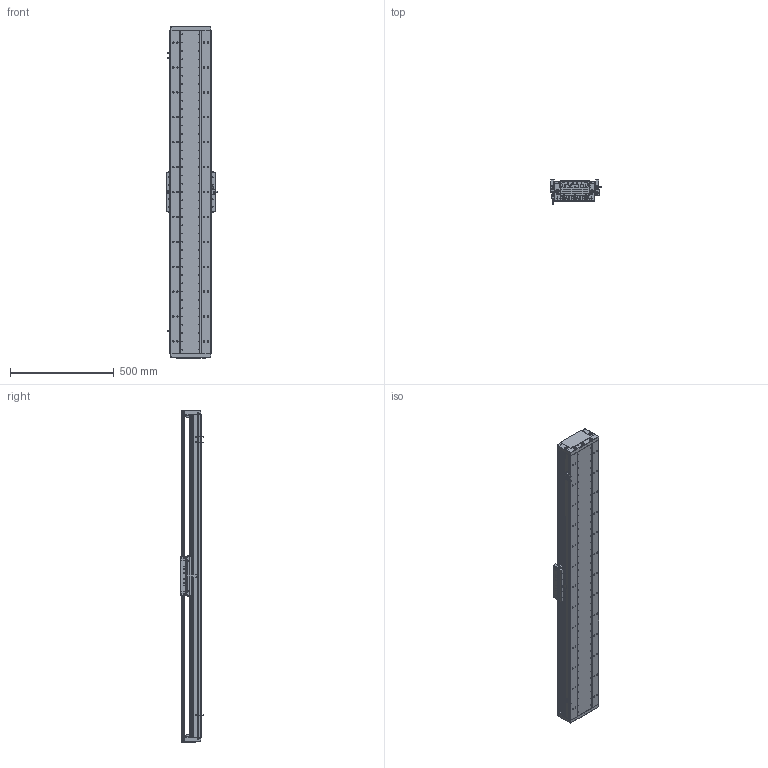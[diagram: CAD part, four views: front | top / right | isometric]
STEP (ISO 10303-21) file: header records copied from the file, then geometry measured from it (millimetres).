
FILE_DESCRIPTION (( 'STEP AP203' ), '1' );
FILE_NAME ('DA-C195-C2-T1320-C010-0.2 眻盄萇儂.STEP', '2025-08-15T01:05:31', ( '' ), ( '' ), 'SwSTEP 2.0', 'SolidWorks 2019', '' );
FILE_SCHEMA (( 'CONFIG_CONTROL_DESIGN' ));
Length unit declared in the file: millimetre
Products named in the file (12): DA95-HXJ-00 遣喳砎蝶; CU195-C2賑輸-俋楷; DA195-DG-H-00  端盖（压铸镂空版）; LMT黍杅芛; 66156-0001-005-00 光电感应片(默认); 66156-0001-003-00 裔啣; 葩璃 DA95-GT-T-00; IU-CU195-L-00 菁釱(L1560); MS200 棠掑喜S315-T240; IU-CU195-L 菁釱絳寢; PM-T45ㄗ侂狟ㄘ; DA-C195-C2-T1320-C010-0.2 眻盄萇儂
Assembly tree (20 placements, depth 3):
  DA-C195-C2-T1320-C010-0.2 眻盄萇儂
    IU-CU195-L 菁釱絳寢
      IU-CU195-L-00 菁釱(L1560)
      葩璃 DA95-GT-T-00  x4
    LMT黍杅芛
    MS200 棠掑喜S315-T240
    PM-T45ㄗ侂狟ㄘ  x3
    66156-0001-005-00 光电感应片(默认)
    DA195-DG-H-00  端盖（压铸镂空版）  x2
    DA95-HXJ-00 遣喳砎蝶  x4
    66156-0001-003-00 裔啣
    CU195-C2賑輸-俋楷
Bounding box: 248 x 115.6 x 1600 mm (x, y, z)
Volume: 10738747.3 mm3; surface area: 3083714.5 mm2
Topology: 58 solids, 130 shells, 5413 faces, 14036 edges, 8569 vertices
Faces by surface type: cylinder 2421, plane 1642, bspline 710, cone 560, torus 44, sphere 36
Entity records: 153535 total; most frequent: CARTESIAN_POINT 48483, ORIENTED_EDGE 22126, DIRECTION 20984, EDGE_CURVE 11063, AXIS2_PLACEMENT_3D 7823, VERTEX_POINT 6999, LINE 5338, VECTOR 5338
